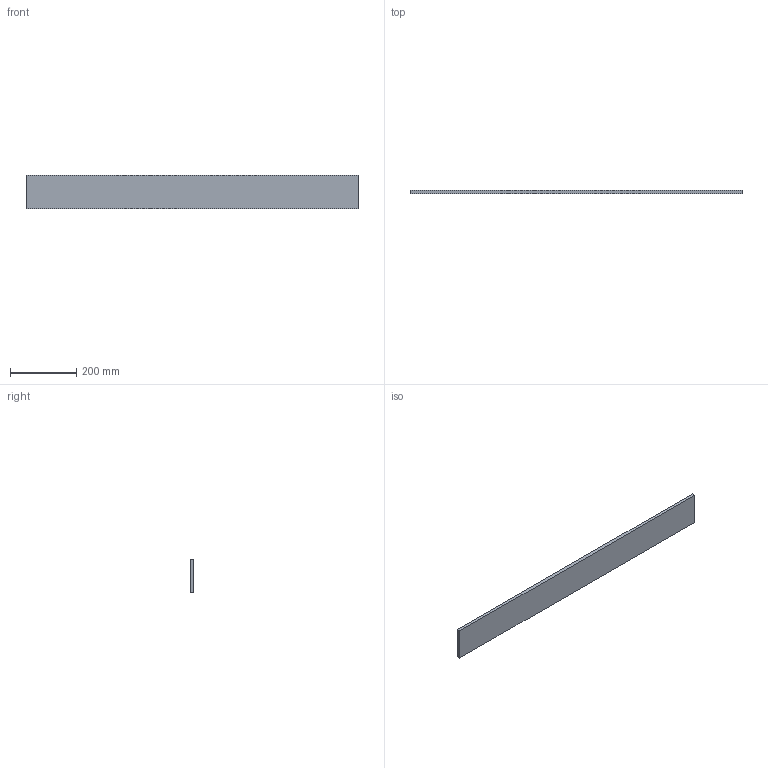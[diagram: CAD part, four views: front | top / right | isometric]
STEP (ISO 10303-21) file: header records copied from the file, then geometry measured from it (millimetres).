
FILE_DESCRIPTION (( 'STEP AP214' ), '1' );
FILE_NAME ('Part1.STEP', '2013-12-09T04:33:31', ( '' ), ( '' ), 'SwSTEP 2.0', 'SolidWorks 2014', '' );
FILE_SCHEMA (( 'AUTOMOTIVE_DESIGN' ));
Length unit declared in the file: millimetre
Products named in the file (1): Part1
Bounding box: 1000 x 10 x 100 mm (x, y, z)
Volume: 1000000 mm3; surface area: 222000 mm2
Topology: 1 solids, 1 shells, 6 faces, 12 edges, 8 vertices
Faces by surface type: plane 6
Entity records: 190 total; most frequent: CARTESIAN_POINT 27, DIRECTION 26, ORIENTED_EDGE 24, EDGE_CURVE 12, VECTOR 12, LINE 12, VERTEX_POINT 8, AXIS2_PLACEMENT_3D 7
